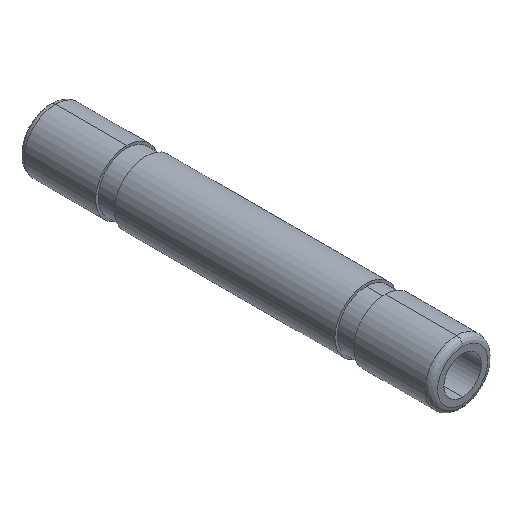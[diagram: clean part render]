
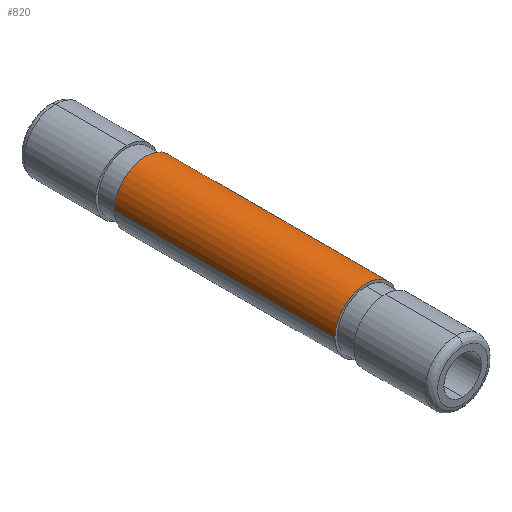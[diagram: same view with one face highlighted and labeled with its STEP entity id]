
A CAD part, isometric view. The second image highlights one B-rep face of the part: STEP entity #820.
In plain terms, the highlighted cylindrical face has radius 2.5 mm (diameter 5 mm), a partial arc.
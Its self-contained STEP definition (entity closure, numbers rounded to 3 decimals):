
#3 = LINE ( 'NONE', #248, #921 ) ;
#56 = EDGE_CURVE ( 'NONE', #336, #534, #312, .T. ) ;
#66 = DIRECTION ( 'NONE',  ( 0., -1., 0. ) ) ;
#67 = FACE_OUTER_BOUND ( 'NONE', #263, .T. ) ;
#188 = DIRECTION ( 'NONE',  ( 1., 0., 0. ) ) ;
#248 = CARTESIAN_POINT ( 'NONE',  ( -2.5, 25.3, 0. ) ) ;
#263 = EDGE_LOOP ( 'NONE', ( #404, #788, #621, #419 ) ) ;
#269 = DIRECTION ( 'NONE',  ( 0., -1., 0. ) ) ;
#312 = CIRCLE ( 'NONE', #802, 2.5 ) ;
#336 = VERTEX_POINT ( 'NONE', #531 ) ;
#393 = VERTEX_POINT ( 'NONE', #437 ) ;
#402 = CARTESIAN_POINT ( 'NONE',  ( 0., 25.3, 0. ) ) ;
#404 = ORIENTED_EDGE ( 'NONE', *, *, #56, .F. ) ;
#419 = ORIENTED_EDGE ( 'NONE', *, *, #938, .F. ) ;
#437 = CARTESIAN_POINT ( 'NONE',  ( 2.5, 7.7, 0. ) ) ;
#494 = VERTEX_POINT ( 'NONE', #776 ) ;
#521 = DIRECTION ( 'NONE',  ( 0., -1., 0. ) ) ;
#531 = CARTESIAN_POINT ( 'NONE',  ( -2.5, 25.3, 0. ) ) ;
#534 = VERTEX_POINT ( 'NONE', #831 ) ;
#558 = CARTESIAN_POINT ( 'NONE',  ( 2.5, 25.3, 0. ) ) ;
#593 = CARTESIAN_POINT ( 'NONE',  ( 0., 25.3, 0. ) ) ;
#594 = DIRECTION ( 'NONE',  ( 0., 1., 0. ) ) ;
#596 = DIRECTION ( 'NONE',  ( 1., 0., 0. ) ) ;
#621 = ORIENTED_EDGE ( 'NONE', *, *, #945, .F. ) ;
#674 = CYLINDRICAL_SURFACE ( 'NONE', #680, 2.5 ) ;
#680 = AXIS2_PLACEMENT_3D ( 'NONE', #402, #269, #188 ) ;
#740 = CARTESIAN_POINT ( 'NONE',  ( 0., 7.7, 0. ) ) ;
#741 = AXIS2_PLACEMENT_3D ( 'NONE', #740, #66, #971 ) ;
#759 = VECTOR ( 'NONE', #780, 1000. ) ;
#776 = CARTESIAN_POINT ( 'NONE',  ( -2.5, 7.7, 0. ) ) ;
#780 = DIRECTION ( 'NONE',  ( 0., -1., 0. ) ) ;
#785 = LINE ( 'NONE', #558, #759 ) ;
#788 = ORIENTED_EDGE ( 'NONE', *, *, #988, .T. ) ;
#802 = AXIS2_PLACEMENT_3D ( 'NONE', #593, #594, #596 ) ;
#820 = ADVANCED_FACE ( 'NONE', ( #67 ), #674, .T. ) ;
#831 = CARTESIAN_POINT ( 'NONE',  ( 2.5, 25.3, 0. ) ) ;
#871 = CIRCLE ( 'NONE', #741, 2.5 ) ;
#921 = VECTOR ( 'NONE', #521, 1000. ) ;
#938 = EDGE_CURVE ( 'NONE', #534, #393, #785, .T. ) ;
#945 = EDGE_CURVE ( 'NONE', #393, #494, #871, .T. ) ;
#971 = DIRECTION ( 'NONE',  ( 1., 0., 0. ) ) ;
#988 = EDGE_CURVE ( 'NONE', #336, #494, #3, .T. ) ;
